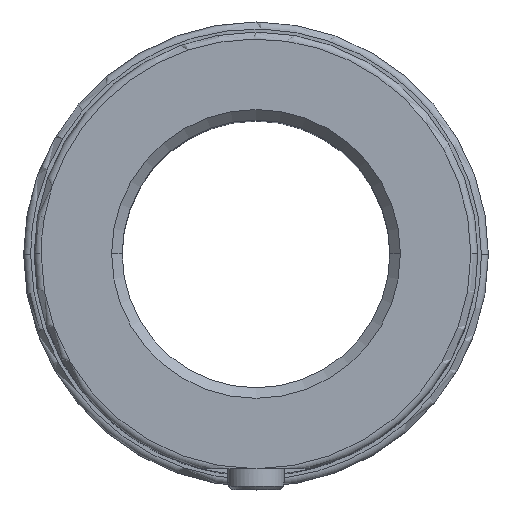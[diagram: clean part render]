
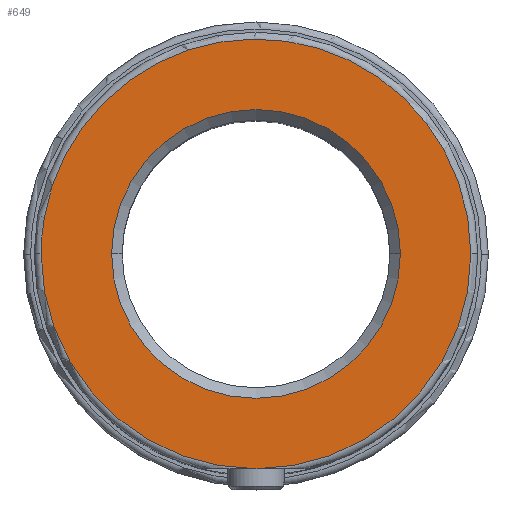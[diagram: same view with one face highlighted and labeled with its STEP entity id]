
A CAD part, top view. The second image highlights one B-rep face of the part: STEP entity #649.
In plain terms, the highlighted planar face has unit normal (0, 0, 1).
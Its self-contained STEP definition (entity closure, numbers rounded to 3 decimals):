
#297=CARTESIAN_POINT('Vertex',(0.,-30.5,45.)) ;
#413=CARTESIAN_POINT('Vertex',(-20.5,0.,45.)) ;
#416=CARTESIAN_POINT('Axis2P3D Location',(0.,0.,45.)) ;
#420=CARTESIAN_POINT('Vertex',(20.5,0.,45.)) ;
#508=CARTESIAN_POINT('Vertex',(30.5,0.,45.)) ;
#511=CARTESIAN_POINT('Axis2P3D Location',(0.,0.,45.)) ;
#532=CARTESIAN_POINT('Vertex',(-30.5,0.,45.)) ;
#535=CARTESIAN_POINT('Axis2P3D Location',(0.,0.,45.)) ;
#597=CARTESIAN_POINT('Axis2P3D Location',(0.,0.,45.)) ;
#609=CARTESIAN_POINT('Axis2P3D Location',(-20.5,0.,45.)) ;
#615=CARTESIAN_POINT('Control Point',(30.5,0.,45.)) ;
#616=CARTESIAN_POINT('Control Point',(30.5,2.976,45.)) ;
#617=CARTESIAN_POINT('Control Point',(30.137,5.952,45.)) ;
#618=CARTESIAN_POINT('Control Point',(29.411,8.869,45.)) ;
#619=CARTESIAN_POINT('Control Point',(27.262,14.467,45.)) ;
#620=CARTESIAN_POINT('Control Point',(23.831,19.385,45.)) ;
#621=CARTESIAN_POINT('Control Point',(21.822,21.621,45.)) ;
#622=CARTESIAN_POINT('Control Point',(17.3,25.559,45.)) ;
#623=CARTESIAN_POINT('Control Point',(11.963,28.294,45.)) ;
#624=CARTESIAN_POINT('Control Point',(9.141,29.328,45.)) ;
#625=CARTESIAN_POINT('Control Point',(3.3,30.686,45.)) ;
#626=CARTESIAN_POINT('Control Point',(-2.695,30.601,45.)) ;
#627=CARTESIAN_POINT('Control Point',(-5.673,30.191,45.)) ;
#628=CARTESIAN_POINT('Control Point',(-11.469,28.653,45.)) ;
#629=CARTESIAN_POINT('Control Point',(-16.725,25.767,45.)) ;
#630=CARTESIAN_POINT('Control Point',(-19.164,24.009,45.)) ;
#631=CARTESIAN_POINT('Control Point',(-23.562,19.933,45.)) ;
#632=CARTESIAN_POINT('Control Point',(-26.852,14.92,45.)) ;
#633=CARTESIAN_POINT('Control Point',(-28.182,12.224,45.)) ;
#634=CARTESIAN_POINT('Control Point',(-29.603,8.15,45.)) ;
#635=CARTESIAN_POINT('Control Point',(-30.29,3.916,45.)) ;
#636=CARTESIAN_POINT('Control Point',(-30.43,2.614,45.)) ;
#637=CARTESIAN_POINT('Control Point',(-30.5,1.307,45.)) ;
#638=CARTESIAN_POINT('Control Point',(-30.5,0.,45.)) ;
#417=DIRECTION('Axis2P3D Direction',(0.,-0.,1.)) ;
#512=DIRECTION('Axis2P3D Direction',(0.,-0.,1.)) ;
#536=DIRECTION('Axis2P3D Direction',(0.,-0.,1.)) ;
#598=DIRECTION('Axis2P3D Direction',(0.,-0.,1.)) ;
#610=DIRECTION('Axis2P3D Direction',(0.,0.,-1.)) ;
#611=DIRECTION('Axis2P3D XDirection',(-1.,0.,-0.)) ;
#418=AXIS2_PLACEMENT_3D('Circle Axis2P3D',#416,#417,$) ;
#513=AXIS2_PLACEMENT_3D('Circle Axis2P3D',#511,#512,$) ;
#537=AXIS2_PLACEMENT_3D('Circle Axis2P3D',#535,#536,$) ;
#599=AXIS2_PLACEMENT_3D('Circle Axis2P3D',#597,#598,$) ;
#612=AXIS2_PLACEMENT_3D('Plane Axis2P3D',#609,#610,#611) ;
#641=ORIENTED_EDGE('',*,*,#515,.T.) ;
#642=ORIENTED_EDGE('',*,*,#639,.T.) ;
#643=ORIENTED_EDGE('',*,*,#539,.T.) ;
#646=ORIENTED_EDGE('',*,*,#601,.F.) ;
#647=ORIENTED_EDGE('',*,*,#422,.F.) ;
#648=FACE_BOUND('',#645,.T.) ;
#649=ADVANCED_FACE('744-38 sol1',(#644,#648),#613,.F.) ;
#614=B_SPLINE_CURVE_WITH_KNOTS('',5,(#615,#616,#617,#618,#619,#620,#621,#622,#623,#624,#625,#626,#627,#628,#629,#630,#631,#632,#633,#634,#635,#636,#637,#638),.UNSPECIFIED.,.F.,.U.,(6,3,3,3,3,3,3,6),(0.,21.044,42.088,63.132,84.176,105.22,126.264,135.507),.UNSPECIFIED.) ;
#419=CIRCLE('generated circle',#418,20.5) ;
#514=CIRCLE('generated circle',#513,30.5) ;
#538=CIRCLE('generated circle',#537,30.5) ;
#600=CIRCLE('generated circle',#599,20.5) ;
#422=EDGE_CURVE('',#414,#421,#419,.T.) ;
#515=EDGE_CURVE('',#298,#509,#514,.T.) ;
#539=EDGE_CURVE('',#533,#298,#538,.T.) ;
#601=EDGE_CURVE('',#421,#414,#600,.T.) ;
#639=EDGE_CURVE('',#509,#533,#614,.T.) ;
#640=EDGE_LOOP('',(#641,#642,#643)) ;
#645=EDGE_LOOP('',(#646,#647)) ;
#644=FACE_OUTER_BOUND('',#640,.T.) ;
#613=PLANE('Plane',#612) ;
#298=VERTEX_POINT('',#297) ;
#414=VERTEX_POINT('',#413) ;
#421=VERTEX_POINT('',#420) ;
#509=VERTEX_POINT('',#508) ;
#533=VERTEX_POINT('',#532) ;
